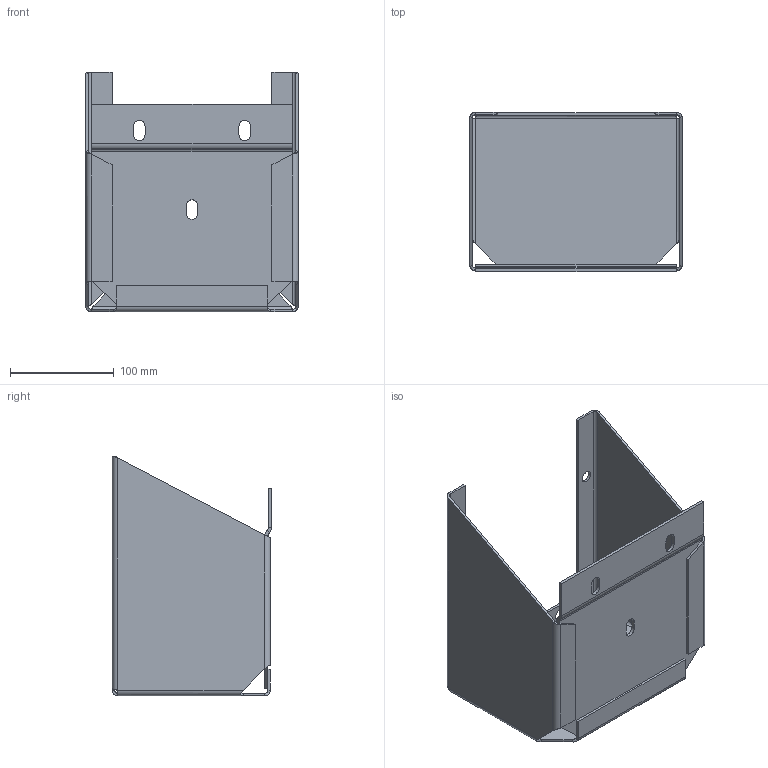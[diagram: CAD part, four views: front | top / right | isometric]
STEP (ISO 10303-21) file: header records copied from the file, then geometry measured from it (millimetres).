
FILE_DESCRIPTION (( 'STEP AP203' ), '1' );
FILE_NAME ('27208.step', '2014-03-07T07:48:03', ( '' ), ( '' ), 'SwSTEP 2.0', 'SolidWorks 2010', '' );
FILE_SCHEMA (( 'CONFIG_CONTROL_DESIGN' ));
Length unit declared in the file: inch
Products named in the file (4): 27208; 89106217; 89106166; 27207001
Assembly tree (3 placements, depth 3):
  27208
    89106217
      89106166
      27207001
Bounding box: 204.77 x 153.57 x 230.96 mm (x, y, z)
Volume: 372489 mm3; surface area: 294686.3 mm2
Topology: 2 solids, 2 shells, 182 faces, 445 edges, 270 vertices
Faces by surface type: plane 94, bspline 51, cylinder 37
Entity records: 7430 total; most frequent: CARTESIAN_POINT 3118, ORIENTED_EDGE 890, DIRECTION 641, EDGE_CURVE 445, VERTEX_POINT 270, LINE 257, VECTOR 257, EDGE_LOOP 199
